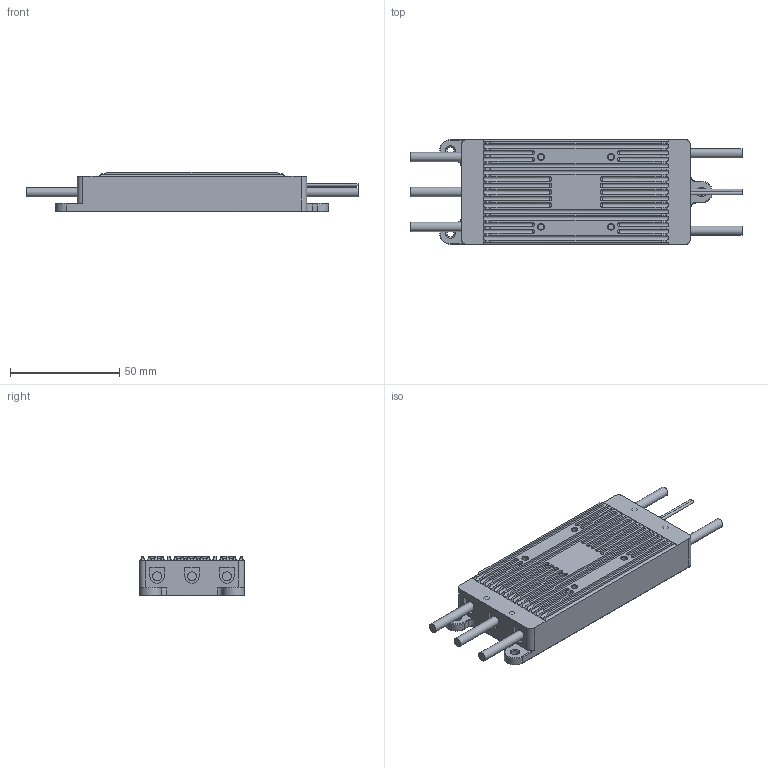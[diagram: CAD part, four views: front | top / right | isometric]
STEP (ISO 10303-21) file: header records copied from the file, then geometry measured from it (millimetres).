
FILE_DESCRIPTION(('STEP AP214'),'1');
FILE_NAME('80A电调外壳-2','2023-02-24T04:08:54',('Home'),(' '),'Spatial InterOp 3D',' ',' ');
FILE_SCHEMA(('automotive_design'));
Length unit declared in the file: millimetre
Products named in the file (1): 1
Bounding box: 152 x 48 x 18.3 mm (x, y, z)
Volume: 88531.2 mm3; surface area: 21283.4 mm2
Topology: 1 solids, 5 shells, 368 faces, 951 edges, 594 vertices
Faces by surface type: plane 232, cylinder 88, cone 30, sphere 18
Full cylindrical faces by diameter (mm): 1.2 x2, 2.5 x8, 3.3 x3, 4.2 x5
Entity records: 18191 total; most frequent: CARTESIAN_POINT 1884, DIRECTION 1875, ORIENTED_EDGE 1788, STYLED_ITEM 1263, PRESENTATION_STYLE_ASSIGNMENT 1263, COLOUR_RGB 1263, EDGE_CURVE 894, CURVE_STYLE 894
